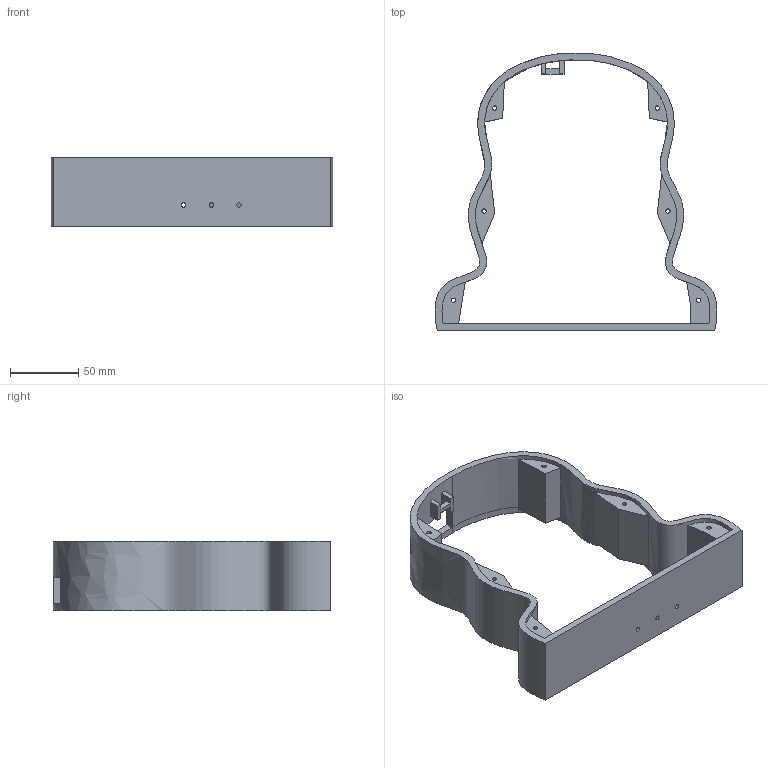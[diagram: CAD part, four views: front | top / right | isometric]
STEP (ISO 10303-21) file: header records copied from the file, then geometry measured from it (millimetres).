
FILE_DESCRIPTION(/* description */ (''),/* implementation_level */ '2;1');
FILE_NAME(/* name */ 'InnerWall (New).step',/* time_stamp */ '2026-06-10T02:31:42-04:00',/* author */ (''),/* organization */ (''),/* preprocessor_version */ 'ST-DEVELOPER v20.1',/* originating_system */ 'Autodesk Translation Framework v15.8.0.0',/* authorisation */ '');
FILE_SCHEMA (('AUTOMOTIVE_DESIGN { 1 0 10303 214 3 1 1 }'));
Length unit declared in the file: inch
Products named in the file (1): 2026-06-10-02-31-42-741
Bounding box: 206.31 x 203.24 x 50.8 mm (x, y, z)
Volume: 246684.2 mm3; surface area: 87583.4 mm2
Topology: 1 solids, 1 shells, 70 faces, 198 edges, 127 vertices
Faces by surface type: plane 44, bspline 17, cylinder 9
Full cylindrical faces by diameter (mm): 3.175 x9
Entity records: 4388 total; most frequent: CARTESIAN_POINT 2713, ORIENTED_EDGE 396, DIRECTION 231, EDGE_CURVE 198, VERTEX_POINT 127, EDGE_LOOP 93, B_SPLINE_CURVE_WITH_KNOTS 89, LINE 87
